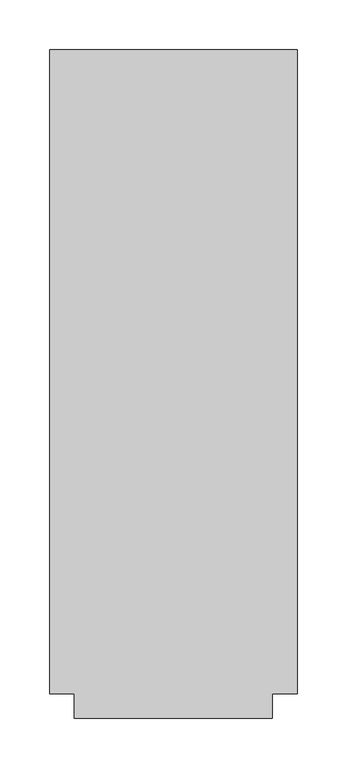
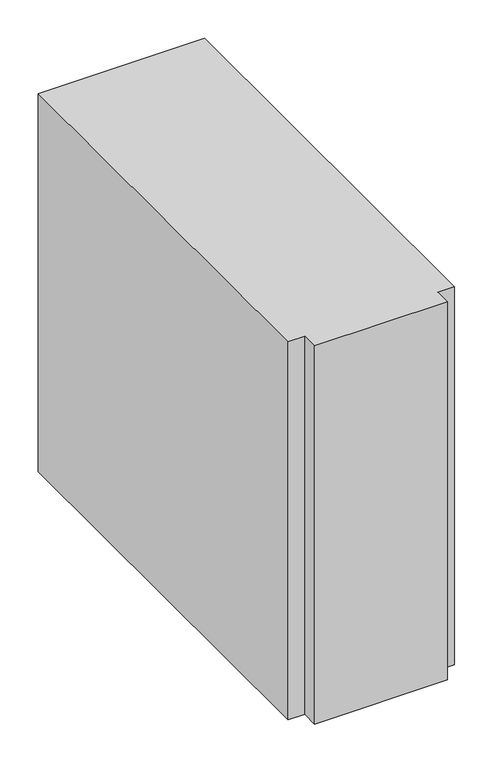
"""IFC4 building model written with IfcOpenShell, lengths in millimetres: duct fitting geometry, M_Te rectangular : Estándar."""

from ifc_helpers import new_model, si_unit, frame, origin, place, context, project, spatial, polyline, outline, extrude, source, transform, mapped, element, save


def duct_fitting_3e435136(model_context):
    return source(origin(), model_context, "Body", "SweptSolid", [
        extrude(outline(polyline([(-125.0, -325.0), (-125.0, 325.0), (125.0, 325.0), (125.0, -325.0), (100.0, -325.0), (100.0, -350.0), (-100.0, -350.0), (-100.0, -325.0), (-125.0, -325.0)])), frame((0.0, 0.0, -300.0), z_axis=(0.0, 0.0, 1.0), x_axis=(1.0, 0.0, 0.0)), (0.0, 0.0, 1.0), 600.0),
    ])


if __name__ == "__main__":
    model = new_model("IFC4")
    model_context = context("Model", 3, world=origin())
    ifc_project = project(units=[si_unit("LENGTHUNIT", "METRE", prefix="MILLI")], contexts=[model_context])
    site = spatial("IfcSite", under=ifc_project)
    building = spatial("IfcBuilding", under=site)
    placement = place(None, origin())
    duct_fitting_shape = duct_fitting_3e435136(model_context)
    element("IfcDuctFitting", 1, ObjectType="M_Te rectangular : Estándar", at=placement, inside=building, context=model_context, shape_type="MappedRepresentation", body=[
        mapped(duct_fitting_shape, transform((0.0, 0.0, 0.0), x_axis=(1.0, 0.0, 0.0), y_axis=(0.0, 1.0, 0.0), z_axis=(0.0, 0.0, 1.0))),
    ])
    save(model, "model.ifc")
